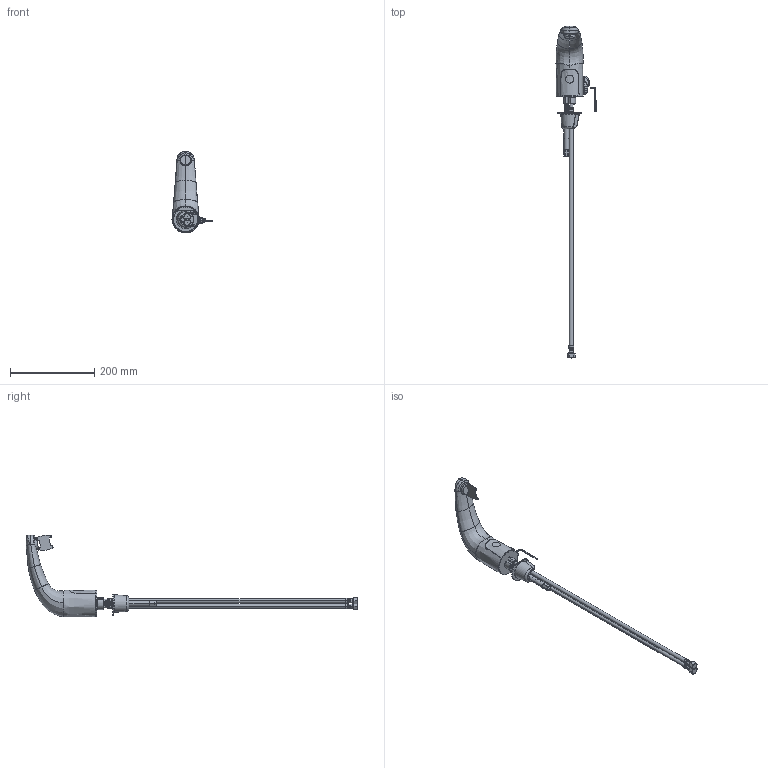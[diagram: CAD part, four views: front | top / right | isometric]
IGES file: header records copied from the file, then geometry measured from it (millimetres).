
Start section:  PTC IGES file: 116-221-ab-4t_REV062922.igs
Global section: file name: 116-221-ab-4t_REV062922.igs; native system: Creo Parametric by PTC Inc.; preprocessor: 2021184; author: rodjo; organization: Unknown; date: 20220629.085150; units: inch
Bounding box: 94.8 x 786.04 x 194.06 mm (x, y, z)
Surface area: 126515 mm2 (no closed solid volume)
Topology: 0 solids, 0 shells, 621 faces, 4939 edges, 6757 vertices
Faces by surface type: revolution 358, bspline 263
